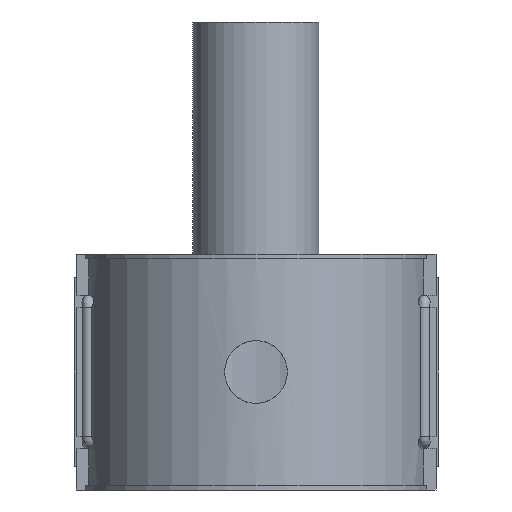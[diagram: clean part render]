
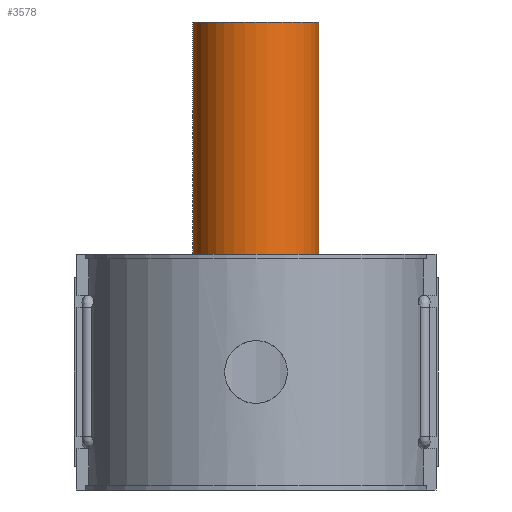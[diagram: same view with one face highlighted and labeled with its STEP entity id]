
A CAD part, front view. The second image highlights one B-rep face of the part: STEP entity #3578.
In plain terms, the highlighted cylindrical face has radius 31.5 mm (diameter 63 mm), a full revolution.
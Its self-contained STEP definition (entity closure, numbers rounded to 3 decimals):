
#321=CIRCLE('',#3923,31.5);
#322=CIRCLE('',#3924,31.5);
#323=CIRCLE('',#3925,31.5);
#324=CIRCLE('',#3926,31.5);
#531=FACE_OUTER_BOUND('',#755,.T.);
#755=EDGE_LOOP('',(#3308,#3309,#3310,#3311,#3312,#3313));
#1063=LINE('',#7421,#1367);
#1367=VECTOR('',#4880,31.5);
#1769=VERTEX_POINT('',#7416);
#1770=VERTEX_POINT('',#7417);
#1771=VERTEX_POINT('',#7420);
#1772=VERTEX_POINT('',#7422);
#2284=EDGE_CURVE('',#1769,#1770,#321,.T.);
#2285=EDGE_CURVE('',#1770,#1769,#322,.T.);
#2286=EDGE_CURVE('',#1770,#1771,#1063,.T.);
#2287=EDGE_CURVE('',#1771,#1772,#323,.T.);
#2288=EDGE_CURVE('',#1772,#1771,#324,.T.);
#3308=ORIENTED_EDGE('',*,*,#2284,.F.);
#3309=ORIENTED_EDGE('',*,*,#2285,.F.);
#3310=ORIENTED_EDGE('',*,*,#2286,.T.);
#3311=ORIENTED_EDGE('',*,*,#2287,.T.);
#3312=ORIENTED_EDGE('',*,*,#2288,.T.);
#3313=ORIENTED_EDGE('',*,*,#2286,.F.);
#3379=CYLINDRICAL_SURFACE('',#3922,31.5);
#3578=ADVANCED_FACE('',(#531),#3379,.T.);
#3922=AXIS2_PLACEMENT_3D('',#7415,#4874,#4875);
#3923=AXIS2_PLACEMENT_3D('',#7418,#4876,#4877);
#3924=AXIS2_PLACEMENT_3D('',#7419,#4878,#4879);
#3925=AXIS2_PLACEMENT_3D('',#7423,#4881,#4882);
#3926=AXIS2_PLACEMENT_3D('',#7424,#4883,#4884);
#4874=DIRECTION('center_axis',(0.,0.,1.));
#4875=DIRECTION('ref_axis',(0.,-1.,0.));
#4876=DIRECTION('center_axis',(0.,0.,1.));
#4877=DIRECTION('ref_axis',(1.,0.,0.));
#4878=DIRECTION('center_axis',(0.,0.,1.));
#4879=DIRECTION('ref_axis',(1.,0.,0.));
#4880=DIRECTION('',(0.,0.,-1.));
#4881=DIRECTION('center_axis',(0.,0.,1.));
#4882=DIRECTION('ref_axis',(1.,0.,0.));
#4883=DIRECTION('center_axis',(0.,0.,1.));
#4884=DIRECTION('ref_axis',(1.,0.,0.));
#7415=CARTESIAN_POINT('Origin',(0.,134.,87.5));
#7416=CARTESIAN_POINT('',(0.,102.5,175.));
#7417=CARTESIAN_POINT('',(0.,165.5,175.));
#7418=CARTESIAN_POINT('Origin',(0.,134.,175.));
#7419=CARTESIAN_POINT('Origin',(0.,134.,175.));
#7420=CARTESIAN_POINT('',(0.,165.5,0.));
#7421=CARTESIAN_POINT('',(0.,165.5,87.5));
#7422=CARTESIAN_POINT('',(0.,102.5,0.));
#7423=CARTESIAN_POINT('Origin',(0.,134.,0.));
#7424=CARTESIAN_POINT('Origin',(0.,134.,0.));
